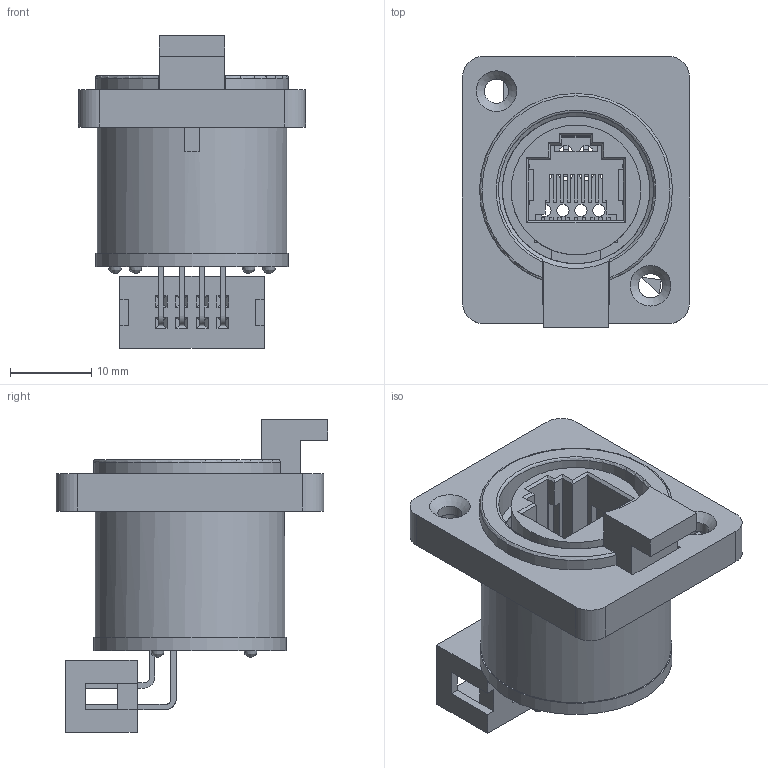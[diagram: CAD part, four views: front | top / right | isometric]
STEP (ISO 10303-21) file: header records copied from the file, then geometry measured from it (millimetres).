
FILE_DESCRIPTION(/* description */ (''),/* implementation_level */ '2;1');
FILE_NAME(/* name */ 'KNZ-63-N90.stp',/* time_stamp */ '2025-04-01T15:50:25+08:00',/* author */ (''),/* organization */ (''),/* preprocessor_version */ 'ST-DEVELOPER v16',/* originating_system */ 'SIEMENS PLM Software NX 10.0',/* authorisation */ '');
FILE_SCHEMA (('CONFIG_CONTROL_DESIGN'));
Length unit declared in the file: millimetre
Products named in the file (1): KNZ-63-N90自锁_stp
Bounding box: 28.01 x 33.51 x 38.56 mm (x, y, z)
Volume: 7506.8 mm3; surface area: 10698.9 mm2
Topology: 2 solids, 5 shells, 611 faces, 1652 edges, 1062 vertices
Faces by surface type: plane 485, cylinder 85, bspline 36, cone 3, torus 2
Full cylindrical faces by diameter (mm): 1.5 x8, 1.7 x8, 3 x6, 3.8 x3, 16 x1, 18.2 x1, 23.4 x1, 23.7 x1
Entity records: 21535 total; most frequent: CARTESIAN_POINT 6280, ORIENTED_EDGE 3216, DIRECTION 2893, EDGE_CURVE 1608, LINE 1303, VECTOR 1303, VERTEX_POINT 1054, AXIS2_PLACEMENT_3D 795
